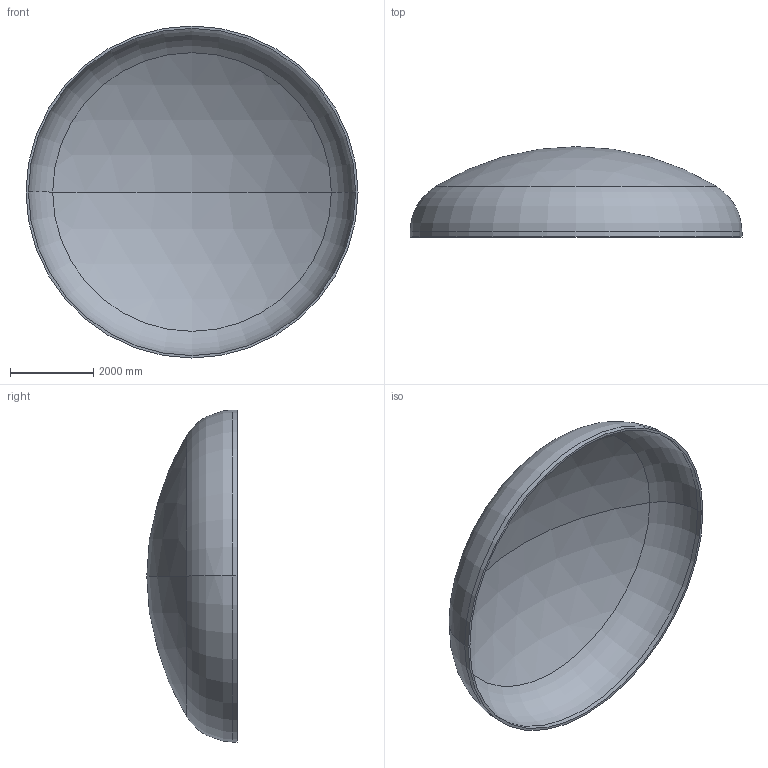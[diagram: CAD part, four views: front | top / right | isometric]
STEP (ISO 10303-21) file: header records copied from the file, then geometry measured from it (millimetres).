
FILE_DESCRIPTION (( 'STEP AP203' ), '1' );
FILE_NAME ('DIN 28013 Korbbogenform_-_Boden DIN 28013 - 8000 x 120 - I - s=58.step', '2016-07-04T11:02:48', ( '' ), ( '' ), 'SwSTEP 2.0', 'SolidWorks 2013', '' );
FILE_SCHEMA (( 'CONFIG_CONTROL_DESIGN' ));
Length unit declared in the file: millimetre
Products named in the file (1): DIN 28013 Korbbogenform_-_Boden DIN 28013 - 8000 x 120 - I - s=58
Bounding box: 8000 x 2176.41 x 8000 mm (x, y, z)
Volume: 4171692345.2 mm3; surface area: 145305579.9 mm2
Topology: 1 solids, 1 shells, 13 faces, 24 edges, 14 vertices
Faces by surface type: torus 4, cylinder 4, sphere 4, plane 1
Entity records: 407 total; most frequent: DIRECTION 72, CARTESIAN_POINT 52, ORIENTED_EDGE 48, AXIS2_PLACEMENT_3D 34, EDGE_CURVE 24, CIRCLE 20, VERTEX_POINT 14, EDGE_LOOP 14
